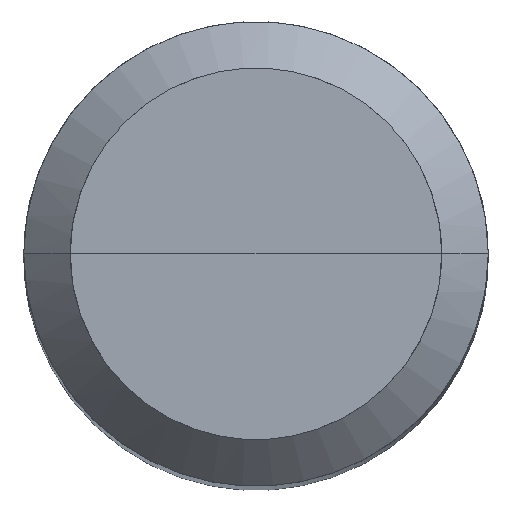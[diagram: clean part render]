
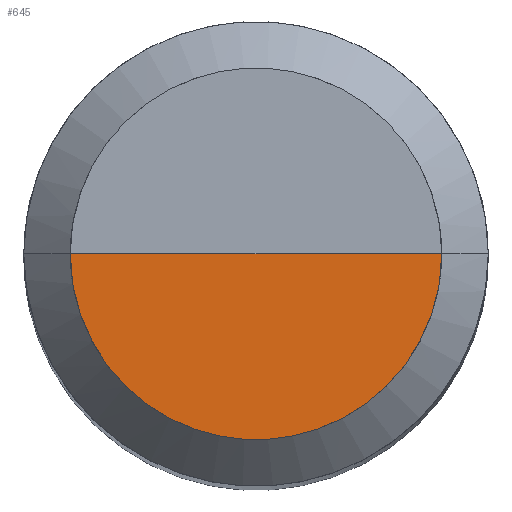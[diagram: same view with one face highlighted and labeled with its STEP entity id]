
A CAD part, top view. The second image highlights one B-rep face of the part: STEP entity #645.
In plain terms, the highlighted free-form (B-spline) face has degree [1, 2] with [2, 5] control points.
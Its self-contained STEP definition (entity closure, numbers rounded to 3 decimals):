
#295=CARTESIAN_POINT('',(6.4,0.0,83.983));
#299=CARTESIAN_POINT('',(-6.4,0.0,83.983));
#300=CARTESIAN_POINT('',(0.0,0.0,83.983));
#304=CARTESIAN_POINT('',(-6.4,-6.4,83.983));
#305=CARTESIAN_POINT('',(0.0,-6.4,83.983));
#306=CARTESIAN_POINT('',(6.4,-6.4,83.983));
#630=(
BOUNDED_SURFACE()
B_SPLINE_SURFACE(1,2,(
(#299,#304,#305,#306,#295),
(#300,#300,#300,#300,#300)
), .UNSPECIFIED.,.F.,.F.,.F.)
B_SPLINE_SURFACE_WITH_KNOTS((2,2),(3,2,3),(
0.0,1.0),(
0.0,0.5,1.0), .UNSPECIFIED.)
GEOMETRIC_REPRESENTATION_ITEM()
RATIONAL_B_SPLINE_SURFACE(((1.0,0.707,1.0,0.707,1.0),
(1.0,0.707,1.0,0.707,1.0)
))
REPRESENTATION_ITEM('')
SURFACE()
);
#631=(
BOUNDED_CURVE()
B_SPLINE_CURVE(2,(#295,#306,#305,#304,#299),.UNSPECIFIED.,.F.,.F.)
B_SPLINE_CURVE_WITH_KNOTS((3,2,3),
(0.0,0.5,1.0),.UNSPECIFIED.)
CURVE()
GEOMETRIC_REPRESENTATION_ITEM()
RATIONAL_B_SPLINE_CURVE((1.0,0.707,1.0,0.707,1.0))
REPRESENTATION_ITEM('')
);
#632=(
BOUNDED_CURVE()
B_SPLINE_CURVE(1,(#299,#300),.UNSPECIFIED.,.F.,.F.)
B_SPLINE_CURVE_WITH_KNOTS((2,2),
(0.0,1.0),.UNSPECIFIED.)
CURVE()
GEOMETRIC_REPRESENTATION_ITEM()
RATIONAL_B_SPLINE_CURVE((1.0,1.0))
REPRESENTATION_ITEM('')
);
#633=(
BOUNDED_CURVE()
B_SPLINE_CURVE(1,(#300,#295),.UNSPECIFIED.,.F.,.F.)
B_SPLINE_CURVE_WITH_KNOTS((2,2),
(0.0,1.0),.UNSPECIFIED.)
CURVE()
GEOMETRIC_REPRESENTATION_ITEM()
RATIONAL_B_SPLINE_CURVE((1.0,1.0))
REPRESENTATION_ITEM('')
);
#634=VERTEX_POINT('',#295);
#635=VERTEX_POINT('',#299);
#636=VERTEX_POINT('',#300);
#637=EDGE_CURVE('',#634,#635,#631,.T.);
#638=EDGE_CURVE('',#635,#636,#632,.T.);
#639=EDGE_CURVE('',#636,#634,#633,.T.);
#640=ORIENTED_EDGE('',*,*,#637,.T.);
#641=ORIENTED_EDGE('',*,*,#638,.T.);
#642=ORIENTED_EDGE('',*,*,#639,.T.);
#643=EDGE_LOOP('',(#640,#641,#642));
#644=FACE_OUTER_BOUND('',#643,.T.);
#645=ADVANCED_FACE('',(#644),#630,.T.);
